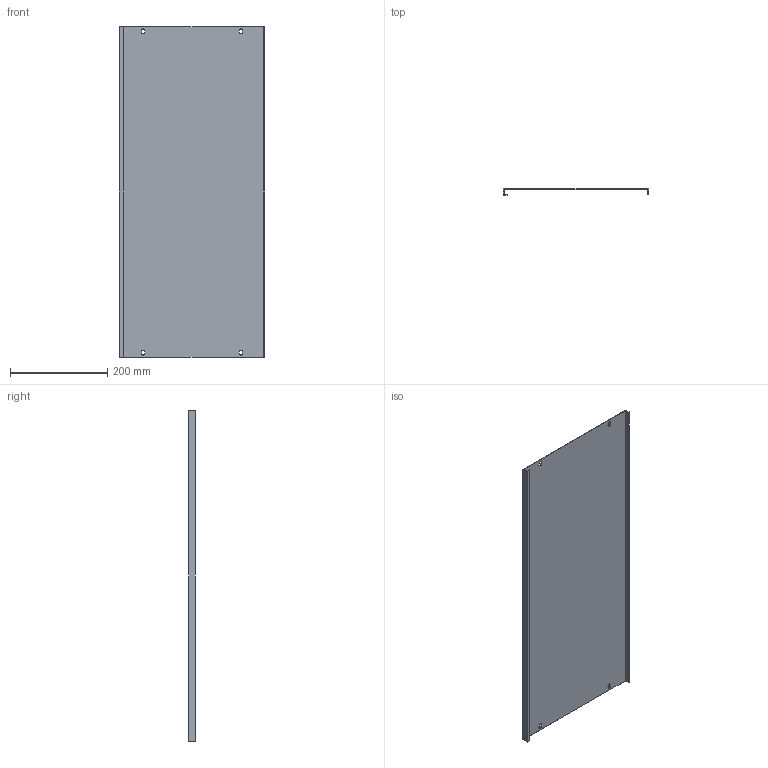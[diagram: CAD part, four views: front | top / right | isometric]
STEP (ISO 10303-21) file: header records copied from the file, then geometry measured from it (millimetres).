
FILE_DESCRIPTION (( 'STEP AP214' ), '1' );
FILE_NAME ('FO-00-PVS-030-080 Ïëàñòðîí ãëóõîé âíóòðåííèé 300õ800.STEP', '2025-08-26T10:10:19', ( '' ), ( '' ), 'SwSTEP 2.0', 'SolidWorks 2023', '' );
FILE_SCHEMA (( 'AUTOMOTIVE_DESIGN' ));
Length unit declared in the file: millimetre
Products named in the file (1): FO-00-PVS-030-080 Пластрон глухой внутренний 300х800
Bounding box: 298 x 12.5 x 679 mm (x, y, z)
Volume: 329637.1 mm3; surface area: 442693.1 mm2
Topology: 1 solids, 1 shells, 42 faces, 120 edges, 80 vertices
Faces by surface type: plane 30, cylinder 12
Entity records: 1407 total; most frequent: CARTESIAN_POINT 243, ORIENTED_EDGE 240, DIRECTION 230, EDGE_CURVE 120, LINE 96, VECTOR 96, VERTEX_POINT 80, AXIS2_PLACEMENT_3D 67
